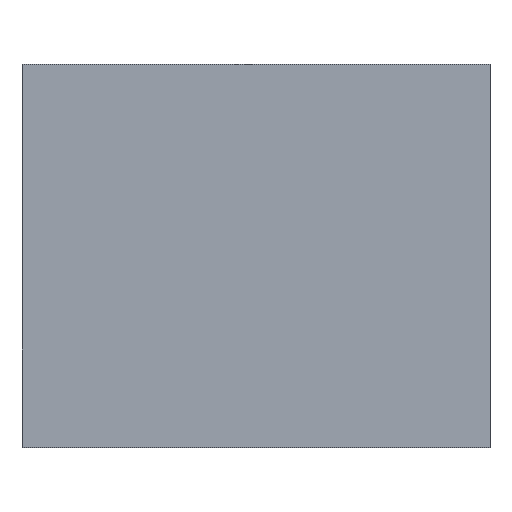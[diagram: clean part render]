
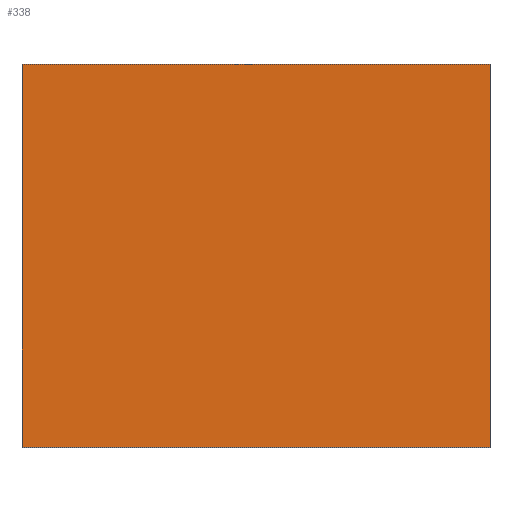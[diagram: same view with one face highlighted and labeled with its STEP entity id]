
A CAD part, top view. The second image highlights one B-rep face of the part: STEP entity #338.
In plain terms, the highlighted planar face has unit normal (0, 0, 1).
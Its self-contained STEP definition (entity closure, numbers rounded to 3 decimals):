
#24 = VERTEX_POINT('',#25);
#25 = CARTESIAN_POINT('',(-1.1,-0.9,1.2));
#32 = PLANE('',#33);
#33 = AXIS2_PLACEMENT_3D('',#34,#35,#36);
#34 = CARTESIAN_POINT('',(-1.1,-0.9,0.));
#35 = DIRECTION('',(1.,0.,0.));
#36 = DIRECTION('',(0.,0.,1.));
#44 = PLANE('',#45);
#45 = AXIS2_PLACEMENT_3D('',#46,#47,#48);
#46 = CARTESIAN_POINT('',(-1.1,-0.9,0.));
#47 = DIRECTION('',(0.,1.,0.));
#48 = DIRECTION('',(0.,0.,1.));
#85 = VERTEX_POINT('',#86);
#86 = CARTESIAN_POINT('',(-1.1,0.9,1.2));
#100 = PLANE('',#101);
#101 = AXIS2_PLACEMENT_3D('',#102,#103,#104);
#102 = CARTESIAN_POINT('',(-1.1,0.9,0.));
#103 = DIRECTION('',(0.,1.,0.));
#104 = DIRECTION('',(0.,0.,1.));
#112 = EDGE_CURVE('',#24,#85,#113,.T.);
#113 = SURFACE_CURVE('',#114,(#118,#125),.PCURVE_S1.);
#114 = LINE('',#115,#116);
#115 = CARTESIAN_POINT('',(-1.1,-0.9,1.2));
#116 = VECTOR('',#117,1.);
#117 = DIRECTION('',(0.,1.,0.));
#118 = PCURVE('',#32,#119);
#119 = DEFINITIONAL_REPRESENTATION('',(#120),#124);
#120 = LINE('',#121,#122);
#121 = CARTESIAN_POINT('',(1.2,0.));
#122 = VECTOR('',#123,1.);
#123 = DIRECTION('',(0.,-1.));
#124 = ( GEOMETRIC_REPRESENTATION_CONTEXT(2) 
PARAMETRIC_REPRESENTATION_CONTEXT() REPRESENTATION_CONTEXT('2D SPACE',''
  ) );
#125 = PCURVE('',#126,#131);
#126 = PLANE('',#127);
#127 = AXIS2_PLACEMENT_3D('',#128,#129,#130);
#128 = CARTESIAN_POINT('',(-1.1,-0.9,1.2));
#129 = DIRECTION('',(0.,0.,1.));
#130 = DIRECTION('',(1.,0.,0.));
#131 = DEFINITIONAL_REPRESENTATION('',(#132),#136);
#132 = LINE('',#133,#134);
#133 = CARTESIAN_POINT('',(0.,0.));
#134 = VECTOR('',#135,1.);
#135 = DIRECTION('',(0.,1.));
#136 = ( GEOMETRIC_REPRESENTATION_CONTEXT(2) 
PARAMETRIC_REPRESENTATION_CONTEXT() REPRESENTATION_CONTEXT('2D SPACE',''
  ) );
#144 = VERTEX_POINT('',#145);
#145 = CARTESIAN_POINT('',(1.1,-0.9,1.2));
#152 = PLANE('',#153);
#153 = AXIS2_PLACEMENT_3D('',#154,#155,#156);
#154 = CARTESIAN_POINT('',(1.1,-0.9,0.));
#155 = DIRECTION('',(1.,0.,0.));
#156 = DIRECTION('',(0.,0.,1.));
#195 = VERTEX_POINT('',#196);
#196 = CARTESIAN_POINT('',(1.1,0.9,1.2));
#217 = EDGE_CURVE('',#144,#195,#218,.T.);
#218 = SURFACE_CURVE('',#219,(#223,#230),.PCURVE_S1.);
#219 = LINE('',#220,#221);
#220 = CARTESIAN_POINT('',(1.1,-0.9,1.2));
#221 = VECTOR('',#222,1.);
#222 = DIRECTION('',(0.,1.,0.));
#223 = PCURVE('',#152,#224);
#224 = DEFINITIONAL_REPRESENTATION('',(#225),#229);
#225 = LINE('',#226,#227);
#226 = CARTESIAN_POINT('',(1.2,0.));
#227 = VECTOR('',#228,1.);
#228 = DIRECTION('',(0.,-1.));
#229 = ( GEOMETRIC_REPRESENTATION_CONTEXT(2) 
PARAMETRIC_REPRESENTATION_CONTEXT() REPRESENTATION_CONTEXT('2D SPACE',''
  ) );
#230 = PCURVE('',#126,#231);
#231 = DEFINITIONAL_REPRESENTATION('',(#232),#236);
#232 = LINE('',#233,#234);
#233 = CARTESIAN_POINT('',(2.2,0.));
#234 = VECTOR('',#235,1.);
#235 = DIRECTION('',(0.,1.));
#236 = ( GEOMETRIC_REPRESENTATION_CONTEXT(2) 
PARAMETRIC_REPRESENTATION_CONTEXT() REPRESENTATION_CONTEXT('2D SPACE',''
  ) );
#263 = EDGE_CURVE('',#24,#144,#264,.T.);
#264 = SURFACE_CURVE('',#265,(#269,#276),.PCURVE_S1.);
#265 = LINE('',#266,#267);
#266 = CARTESIAN_POINT('',(-1.1,-0.9,1.2));
#267 = VECTOR('',#268,1.);
#268 = DIRECTION('',(1.,0.,0.));
#269 = PCURVE('',#44,#270);
#270 = DEFINITIONAL_REPRESENTATION('',(#271),#275);
#271 = LINE('',#272,#273);
#272 = CARTESIAN_POINT('',(1.2,0.));
#273 = VECTOR('',#274,1.);
#274 = DIRECTION('',(0.,1.));
#275 = ( GEOMETRIC_REPRESENTATION_CONTEXT(2) 
PARAMETRIC_REPRESENTATION_CONTEXT() REPRESENTATION_CONTEXT('2D SPACE',''
  ) );
#276 = PCURVE('',#126,#277);
#277 = DEFINITIONAL_REPRESENTATION('',(#278),#282);
#278 = LINE('',#279,#280);
#279 = CARTESIAN_POINT('',(0.,0.));
#280 = VECTOR('',#281,1.);
#281 = DIRECTION('',(1.,0.));
#282 = ( GEOMETRIC_REPRESENTATION_CONTEXT(2) 
PARAMETRIC_REPRESENTATION_CONTEXT() REPRESENTATION_CONTEXT('2D SPACE',''
  ) );
#310 = EDGE_CURVE('',#85,#195,#311,.T.);
#311 = SURFACE_CURVE('',#312,(#316,#323),.PCURVE_S1.);
#312 = LINE('',#313,#314);
#313 = CARTESIAN_POINT('',(-1.1,0.9,1.2));
#314 = VECTOR('',#315,1.);
#315 = DIRECTION('',(1.,0.,0.));
#316 = PCURVE('',#100,#317);
#317 = DEFINITIONAL_REPRESENTATION('',(#318),#322);
#318 = LINE('',#319,#320);
#319 = CARTESIAN_POINT('',(1.2,0.));
#320 = VECTOR('',#321,1.);
#321 = DIRECTION('',(0.,1.));
#322 = ( GEOMETRIC_REPRESENTATION_CONTEXT(2) 
PARAMETRIC_REPRESENTATION_CONTEXT() REPRESENTATION_CONTEXT('2D SPACE',''
  ) );
#323 = PCURVE('',#126,#324);
#324 = DEFINITIONAL_REPRESENTATION('',(#325),#329);
#325 = LINE('',#326,#327);
#326 = CARTESIAN_POINT('',(0.,1.8));
#327 = VECTOR('',#328,1.);
#328 = DIRECTION('',(1.,0.));
#329 = ( GEOMETRIC_REPRESENTATION_CONTEXT(2) 
PARAMETRIC_REPRESENTATION_CONTEXT() REPRESENTATION_CONTEXT('2D SPACE',''
  ) );
#338 = ADVANCED_FACE('',(#339),#126,.T.);
#339 = FACE_BOUND('',#340,.T.);
#340 = EDGE_LOOP('',(#341,#342,#343,#344));
#341 = ORIENTED_EDGE('',*,*,#112,.F.);
#342 = ORIENTED_EDGE('',*,*,#263,.T.);
#343 = ORIENTED_EDGE('',*,*,#217,.T.);
#344 = ORIENTED_EDGE('',*,*,#310,.F.);
